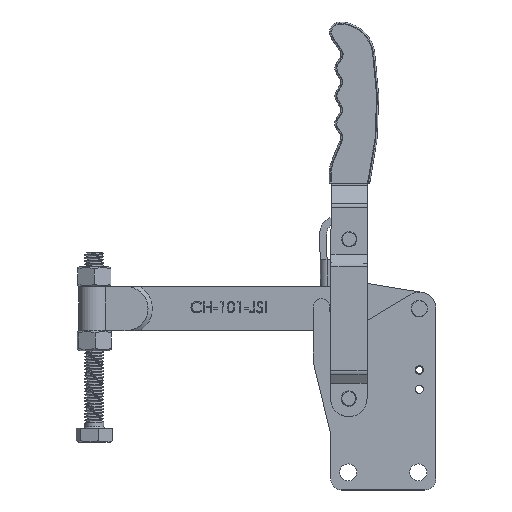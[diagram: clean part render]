
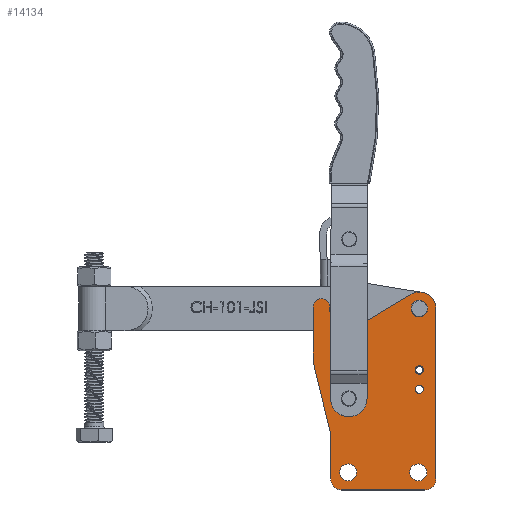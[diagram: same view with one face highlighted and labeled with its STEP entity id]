
A CAD part, top view. The second image highlights one B-rep face of the part: STEP entity #14134.
In plain terms, the highlighted planar face has unit normal (0, 0, 1).
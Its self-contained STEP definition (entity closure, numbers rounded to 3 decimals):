
#1040=FACE_BOUND('',#2716,.T.);
#1041=FACE_BOUND('',#2717,.T.);
#1042=FACE_BOUND('',#2718,.T.);
#1043=FACE_BOUND('',#2719,.T.);
#1044=FACE_BOUND('',#2720,.T.);
#1045=FACE_BOUND('',#2721,.T.);
#1312=PLANE('',#15252);
#1913=FACE_OUTER_BOUND('',#2715,.T.);
#2715=EDGE_LOOP('',(#12000,#12001,#12002,#12003,#12004,#12005,#12006,#12007,
#12008,#12009,#12010,#12011,#12012));
#2716=EDGE_LOOP('',(#12013,#12014));
#2717=EDGE_LOOP('',(#12015,#12016));
#2718=EDGE_LOOP('',(#12017,#12018));
#2719=EDGE_LOOP('',(#12019,#12020));
#2720=EDGE_LOOP('',(#12021,#12022));
#2721=EDGE_LOOP('',(#12023,#12024));
#3820=LINE('',#29622,#4908);
#3821=LINE('',#29626,#4909);
#3822=LINE('',#29630,#4910);
#3823=LINE('',#29634,#4911);
#3824=LINE('',#29638,#4912);
#3825=LINE('',#29642,#4913);
#3826=LINE('',#29644,#4914);
#4908=VECTOR('',#17776,1000.);
#4909=VECTOR('',#17779,1000.);
#4910=VECTOR('',#17782,1000.);
#4911=VECTOR('',#17785,1000.);
#4912=VECTOR('',#17788,1000.);
#4913=VECTOR('',#17791,1000.);
#4914=VECTOR('',#17792,1000.);
#5415=CIRCLE('',#15225,6.15);
#5416=CIRCLE('',#15226,6.15);
#5419=CIRCLE('',#15230,6.15);
#5420=CIRCLE('',#15231,6.15);
#5421=CIRCLE('',#15233,3.);
#5424=CIRCLE('',#15236,3.);
#5425=CIRCLE('',#15238,3.);
#5428=CIRCLE('',#15241,3.);
#5429=CIRCLE('',#15243,6.15);
#5432=CIRCLE('',#15246,6.15);
#5433=CIRCLE('',#15248,4.75);
#5436=CIRCLE('',#15251,4.75);
#5437=CIRCLE('',#15253,8.);
#5438=CIRCLE('',#15254,12.);
#5439=CIRCLE('',#15255,14.);
#5440=CIRCLE('',#15256,6.);
#5441=CIRCLE('',#15257,10.);
#5442=CIRCLE('',#15258,8.);
#6573=VERTEX_POINT('',#29564);
#6574=VERTEX_POINT('',#29566);
#6577=VERTEX_POINT('',#29574);
#6578=VERTEX_POINT('',#29576);
#6579=VERTEX_POINT('',#29580);
#6580=VERTEX_POINT('',#29581);
#6583=VERTEX_POINT('',#29590);
#6584=VERTEX_POINT('',#29591);
#6587=VERTEX_POINT('',#29600);
#6588=VERTEX_POINT('',#29601);
#6591=VERTEX_POINT('',#29610);
#6592=VERTEX_POINT('',#29611);
#6595=VERTEX_POINT('',#29620);
#6596=VERTEX_POINT('',#29621);
#6597=VERTEX_POINT('',#29623);
#6598=VERTEX_POINT('',#29625);
#6599=VERTEX_POINT('',#29627);
#6600=VERTEX_POINT('',#29629);
#6601=VERTEX_POINT('',#29631);
#6602=VERTEX_POINT('',#29633);
#6603=VERTEX_POINT('',#29635);
#6604=VERTEX_POINT('',#29637);
#6605=VERTEX_POINT('',#29639);
#6606=VERTEX_POINT('',#29641);
#6607=VERTEX_POINT('',#29643);
#8465=EDGE_CURVE('',#6573,#6574,#5415,.T.);
#8466=EDGE_CURVE('',#6574,#6573,#5416,.T.);
#8470=EDGE_CURVE('',#6577,#6578,#5419,.T.);
#8471=EDGE_CURVE('',#6578,#6577,#5420,.T.);
#8472=EDGE_CURVE('',#6579,#6580,#5421,.T.);
#8476=EDGE_CURVE('',#6580,#6579,#5424,.T.);
#8477=EDGE_CURVE('',#6583,#6584,#5425,.T.);
#8481=EDGE_CURVE('',#6584,#6583,#5428,.T.);
#8482=EDGE_CURVE('',#6587,#6588,#5429,.T.);
#8486=EDGE_CURVE('',#6588,#6587,#5432,.T.);
#8487=EDGE_CURVE('',#6591,#6592,#5433,.T.);
#8491=EDGE_CURVE('',#6592,#6591,#5436,.T.);
#8492=EDGE_CURVE('',#6595,#6596,#3820,.T.);
#8493=EDGE_CURVE('',#6595,#6597,#5437,.T.);
#8494=EDGE_CURVE('',#6597,#6598,#3821,.T.);
#8495=EDGE_CURVE('',#6598,#6599,#5438,.T.);
#8496=EDGE_CURVE('',#6599,#6600,#3822,.T.);
#8497=EDGE_CURVE('',#6600,#6601,#5439,.T.);
#8498=EDGE_CURVE('',#6601,#6602,#3823,.T.);
#8499=EDGE_CURVE('',#6602,#6603,#5440,.T.);
#8500=EDGE_CURVE('',#6603,#6604,#3824,.T.);
#8501=EDGE_CURVE('',#6604,#6605,#5441,.T.);
#8502=EDGE_CURVE('',#6605,#6606,#3825,.T.);
#8503=EDGE_CURVE('',#6606,#6607,#3826,.T.);
#8504=EDGE_CURVE('',#6607,#6596,#5442,.T.);
#12000=ORIENTED_EDGE('',*,*,#8492,.F.);
#12001=ORIENTED_EDGE('',*,*,#8493,.T.);
#12002=ORIENTED_EDGE('',*,*,#8494,.T.);
#12003=ORIENTED_EDGE('',*,*,#8495,.T.);
#12004=ORIENTED_EDGE('',*,*,#8496,.T.);
#12005=ORIENTED_EDGE('',*,*,#8497,.T.);
#12006=ORIENTED_EDGE('',*,*,#8498,.T.);
#12007=ORIENTED_EDGE('',*,*,#8499,.T.);
#12008=ORIENTED_EDGE('',*,*,#8500,.T.);
#12009=ORIENTED_EDGE('',*,*,#8501,.T.);
#12010=ORIENTED_EDGE('',*,*,#8502,.T.);
#12011=ORIENTED_EDGE('',*,*,#8503,.T.);
#12012=ORIENTED_EDGE('',*,*,#8504,.T.);
#12013=ORIENTED_EDGE('',*,*,#8482,.F.);
#12014=ORIENTED_EDGE('',*,*,#8486,.F.);
#12015=ORIENTED_EDGE('',*,*,#8472,.F.);
#12016=ORIENTED_EDGE('',*,*,#8476,.F.);
#12017=ORIENTED_EDGE('',*,*,#8466,.F.);
#12018=ORIENTED_EDGE('',*,*,#8465,.F.);
#12019=ORIENTED_EDGE('',*,*,#8471,.F.);
#12020=ORIENTED_EDGE('',*,*,#8470,.F.);
#12021=ORIENTED_EDGE('',*,*,#8477,.F.);
#12022=ORIENTED_EDGE('',*,*,#8481,.F.);
#12023=ORIENTED_EDGE('',*,*,#8487,.F.);
#12024=ORIENTED_EDGE('',*,*,#8491,.F.);
#14134=ADVANCED_FACE('',(#1913,#1040,#1041,#1042,#1043,#1044,#1045),#1312,
 .T.);
#15225=AXIS2_PLACEMENT_3D('',#29567,#17715,#17716);
#15226=AXIS2_PLACEMENT_3D('',#29568,#17717,#17718);
#15230=AXIS2_PLACEMENT_3D('',#29577,#17726,#17727);
#15231=AXIS2_PLACEMENT_3D('',#29578,#17728,#17729);
#15233=AXIS2_PLACEMENT_3D('',#29582,#17732,#17733);
#15236=AXIS2_PLACEMENT_3D('',#29588,#17739,#17740);
#15238=AXIS2_PLACEMENT_3D('',#29592,#17743,#17744);
#15241=AXIS2_PLACEMENT_3D('',#29598,#17750,#17751);
#15243=AXIS2_PLACEMENT_3D('',#29602,#17754,#17755);
#15246=AXIS2_PLACEMENT_3D('',#29608,#17761,#17762);
#15248=AXIS2_PLACEMENT_3D('',#29612,#17765,#17766);
#15251=AXIS2_PLACEMENT_3D('',#29618,#17772,#17773);
#15252=AXIS2_PLACEMENT_3D('',#29619,#17774,#17775);
#15253=AXIS2_PLACEMENT_3D('',#29624,#17777,#17778);
#15254=AXIS2_PLACEMENT_3D('',#29628,#17780,#17781);
#15255=AXIS2_PLACEMENT_3D('',#29632,#17783,#17784);
#15256=AXIS2_PLACEMENT_3D('',#29636,#17786,#17787);
#15257=AXIS2_PLACEMENT_3D('',#29640,#17789,#17790);
#15258=AXIS2_PLACEMENT_3D('',#29645,#17793,#17794);
#17715=DIRECTION('center_axis',(0.,0.,1.));
#17716=DIRECTION('ref_axis',(1.,0.,0.));
#17717=DIRECTION('center_axis',(0.,0.,1.));
#17718=DIRECTION('ref_axis',(1.,0.,0.));
#17726=DIRECTION('center_axis',(0.,0.,1.));
#17727=DIRECTION('ref_axis',(1.,0.,0.));
#17728=DIRECTION('center_axis',(0.,0.,1.));
#17729=DIRECTION('ref_axis',(1.,0.,0.));
#17732=DIRECTION('center_axis',(0.,0.,1.));
#17733=DIRECTION('ref_axis',(1.,0.,0.));
#17739=DIRECTION('center_axis',(0.,0.,1.));
#17740=DIRECTION('ref_axis',(1.,0.,0.));
#17743=DIRECTION('center_axis',(0.,0.,1.));
#17744=DIRECTION('ref_axis',(1.,0.,0.));
#17750=DIRECTION('center_axis',(0.,0.,1.));
#17751=DIRECTION('ref_axis',(1.,0.,0.));
#17754=DIRECTION('center_axis',(0.,0.,1.));
#17755=DIRECTION('ref_axis',(1.,0.,0.));
#17761=DIRECTION('center_axis',(0.,0.,1.));
#17762=DIRECTION('ref_axis',(1.,0.,0.));
#17765=DIRECTION('center_axis',(0.,0.,1.));
#17766=DIRECTION('ref_axis',(1.,0.,0.));
#17772=DIRECTION('center_axis',(0.,0.,1.));
#17773=DIRECTION('ref_axis',(1.,0.,0.));
#17774=DIRECTION('center_axis',(0.,0.,1.));
#17775=DIRECTION('ref_axis',(1.,0.,0.));
#17776=DIRECTION('',(-1.,0.,0.));
#17777=DIRECTION('center_axis',(0.,0.,1.));
#17778=DIRECTION('ref_axis',(1.,0.,0.));
#17779=DIRECTION('',(0.,1.,0.));
#17780=DIRECTION('center_axis',(0.,0.,1.));
#17781=DIRECTION('ref_axis',(1.,0.,0.));
#17782=DIRECTION('',(-0.859,-0.512,0.));
#17783=DIRECTION('center_axis',(0.,0.,-1.));
#17784=DIRECTION('ref_axis',(1.,0.,0.));
#17785=DIRECTION('',(0.,1.,0.));
#17786=DIRECTION('center_axis',(0.,0.,1.));
#17787=DIRECTION('ref_axis',(1.,0.,0.));
#17788=DIRECTION('',(0.,-1.,0.));
#17789=DIRECTION('center_axis',(0.,0.,1.));
#17790=DIRECTION('ref_axis',(-1.,0.,0.));
#17791=DIRECTION('',(0.235,-0.972,0.));
#17792=DIRECTION('',(0.,-1.,0.));
#17793=DIRECTION('center_axis',(0.,0.,1.));
#17794=DIRECTION('ref_axis',(1.,0.,0.));
#29564=CARTESIAN_POINT('',(-18.85,-22.9,5.));
#29566=CARTESIAN_POINT('',(-6.55,-22.9,5.));
#29567=CARTESIAN_POINT('Origin',(-12.7,-22.9,5.));
#29568=CARTESIAN_POINT('Origin',(-12.7,-22.9,5.));
#29574=CARTESIAN_POINT('',(-69.65,-22.9,5.));
#29576=CARTESIAN_POINT('',(-57.35,-22.9,5.));
#29577=CARTESIAN_POINT('Origin',(-63.5,-22.9,5.));
#29578=CARTESIAN_POINT('Origin',(-63.5,-22.9,5.));
#29580=CARTESIAN_POINT('',(-15.,37.2,5.));
#29581=CARTESIAN_POINT('',(-9.,37.2,5.));
#29582=CARTESIAN_POINT('Origin',(-12.,37.2,5.));
#29588=CARTESIAN_POINT('Origin',(-12.,37.2,5.));
#29590=CARTESIAN_POINT('',(-15.,51.1,5.));
#29591=CARTESIAN_POINT('',(-9.,51.1,5.));
#29592=CARTESIAN_POINT('Origin',(-12.,51.1,5.));
#29598=CARTESIAN_POINT('Origin',(-12.,51.1,5.));
#29600=CARTESIAN_POINT('',(-69.15,30.5,5.));
#29601=CARTESIAN_POINT('',(-56.85,30.5,5.));
#29602=CARTESIAN_POINT('Origin',(-63.,30.5,5.));
#29608=CARTESIAN_POINT('Origin',(-63.,30.5,5.));
#29610=CARTESIAN_POINT('',(-16.75,95.5,5.));
#29611=CARTESIAN_POINT('',(-7.25,95.5,5.));
#29612=CARTESIAN_POINT('Origin',(-12.,95.5,5.));
#29618=CARTESIAN_POINT('Origin',(-12.,95.5,5.));
#29619=CARTESIAN_POINT('Origin',(-12.,95.5,5.));
#29620=CARTESIAN_POINT('',(-8.,-35.6,5.));
#29621=CARTESIAN_POINT('',(-68.2,-35.6,5.));
#29622=CARTESIAN_POINT('',(0.,-35.6,5.));
#29623=CARTESIAN_POINT('',(0.,-27.6,5.));
#29624=CARTESIAN_POINT('Origin',(-8.,-27.6,5.));
#29625=CARTESIAN_POINT('',(0.,95.5,5.));
#29626=CARTESIAN_POINT('',(0.,0.,5.));
#29627=CARTESIAN_POINT('',(-18.142,105.809,5.));
#29628=CARTESIAN_POINT('Origin',(-12.,95.5,5.));
#29629=CARTESIAN_POINT('',(-55.635,83.473,5.));
#29630=CARTESIAN_POINT('',(-55.635,83.473,5.));
#29631=CARTESIAN_POINT('',(-76.8,95.5,5.));
#29632=CARTESIAN_POINT('Origin',(-62.8,95.5,5.));
#29633=CARTESIAN_POINT('',(-76.8,96.6,5.));
#29634=CARTESIAN_POINT('',(-76.8,95.5,5.));
#29635=CARTESIAN_POINT('',(-88.8,96.6,5.));
#29636=CARTESIAN_POINT('Origin',(-82.8,96.6,5.));
#29637=CARTESIAN_POINT('',(-88.8,58.275,5.));
#29638=CARTESIAN_POINT('',(-88.8,95.5,5.));
#29639=CARTESIAN_POINT('',(-88.52,55.923,5.));
#29640=CARTESIAN_POINT('Origin',(-78.8,58.275,5.));
#29641=CARTESIAN_POINT('',(-76.2,5.,5.));
#29642=CARTESIAN_POINT('',(-76.2,5.,5.));
#29643=CARTESIAN_POINT('',(-76.2,-27.6,5.));
#29644=CARTESIAN_POINT('',(-76.2,0.,5.));
#29645=CARTESIAN_POINT('Origin',(-68.2,-27.6,5.));
